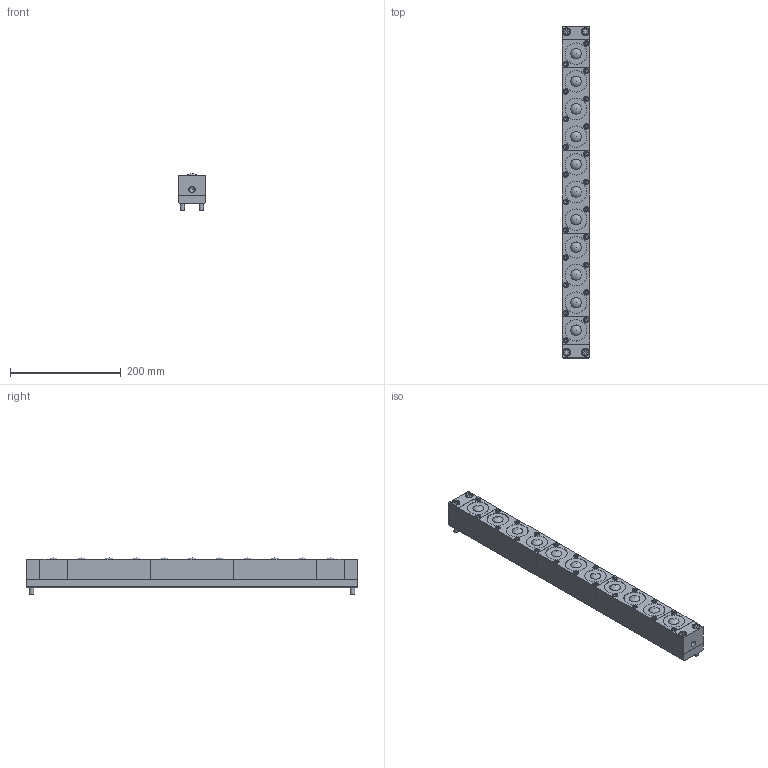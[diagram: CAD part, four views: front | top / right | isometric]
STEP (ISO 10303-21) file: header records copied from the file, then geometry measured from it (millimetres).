
FILE_DESCRIPTION(/* description */ (''),/* implementation_level */ '2;1');
FILE_NAME(/* name */ 'Z:\34-Tei\01-web 3Dデータ\41-ISR-50S型\ISR-50S-600-A.stp',/* time_stamp */ '2015-01-16T09:34:10+09:00',/* author */ ('yamaki'),/* organization */ (''),/* preprocessor_version */ 'ST-DEVELOPER v15.6',/* originating_system */ 'Autodesk Inventor 2015',/* authorisation */ '');
FILE_SCHEMA (('AUTOMOTIVE_DESIGN { 1 0 10303 214 3 1 1 }'));
Length unit declared in the file: millimetre
Products named in the file (6): 4200AT-01-600; 4200AT-02; 六角穴付きボルト-M8x55; 4200AT-00; 4200AT-03; ISR-50S
Bounding box: 49.5 x 600 x 67 mm (x, y, z)
Volume: 1459983.9 mm3; surface area: 344824 mm2
Topology: 19 solids, 19 shells, 587 faces, 1221 edges, 782 vertices
Faces by surface type: plane 386, cylinder 112, cone 50, torus 28, sphere 11
Full cylindrical faces by diameter (mm): 8 x2, 8.5 x22, 9 x2, 9.5 x22, 10.5 x1, 13 x4, 14.5 x4, 31.7 x11, 38.5 x11, 39 x11, 42 x22
Entity records: 6022 total; most frequent: CARTESIAN_POINT 1079, DIRECTION 968, ORIENTED_EDGE 834, EDGE_CURVE 417, AXIS2_PLACEMENT_3D 350, EDGE_LOOP 336, VERTEX_POINT 299, LINE 268
